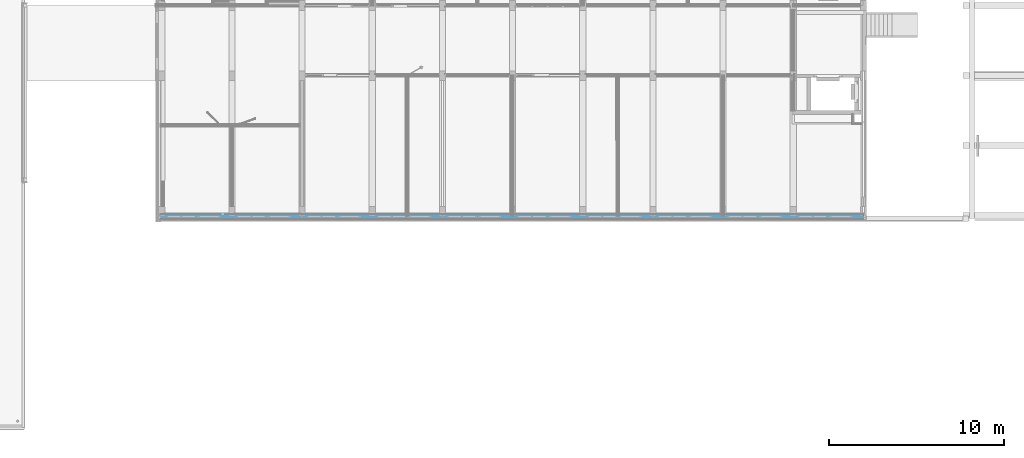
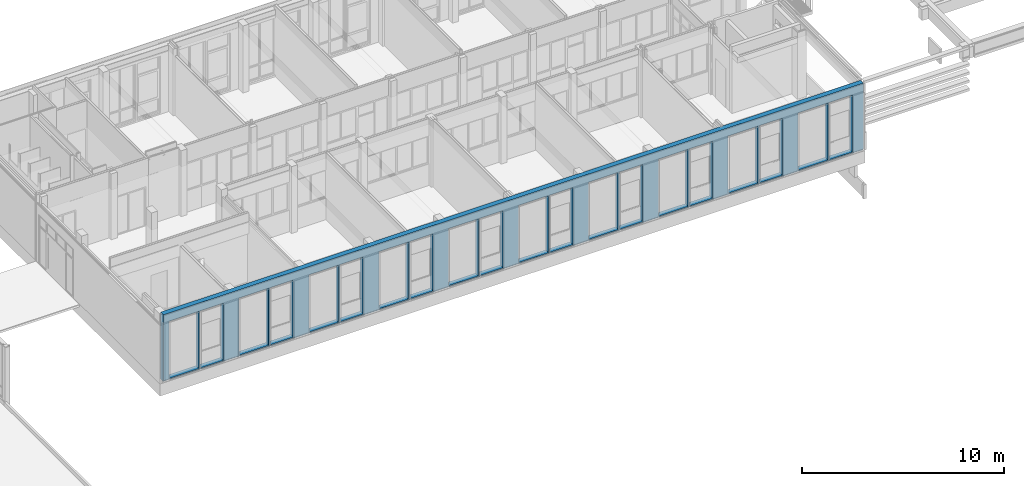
# One storey, part 28 of 54: 1 building element part, 20 openings, 1 element without a shape of its own.
"""IFC2X3 building model written with IfcOpenShell, lengths in millimetres."""

from ifc_helpers import new_model, entity, si_unit, converted_unit, derived_unit, money_unit, direction, frame, origin_with_axes, place, context, subcontext, project, spatial, faceted_brep, material, type_object, element, aggregate, save


model = new_model("IFC2X3")

# Units and contexts
model_context = context("Model", 3, precision=0.01, world=origin_with_axes(), true_north=direction((0.0, 1.0)))
body_context = subcontext(model_context, "Body", "Model", "MODEL_VIEW")
ifc_project = project(units=[si_unit("LENGTHUNIT", "METRE", prefix="MILLI"), si_unit("AREAUNIT", "SQUARE_METRE"), si_unit("VOLUMEUNIT", "CUBIC_METRE"), converted_unit("PLANEANGLEUNIT", "DEGREE", entity("IfcPlaneAngleMeasure", 0.0174532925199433), si_unit("PLANEANGLEUNIT", "RADIAN"), dimensions=[0, 0, 0, 0, 0, 0, 0]), money_unit("EUR"), converted_unit("TIMEUNIT", "Year", entity("IfcTimeMeasure", 31557600.0), si_unit("TIMEUNIT", "SECOND"), dimensions=[0, 0, 1, 0, 0, 0, 0]), si_unit("MASSUNIT", "GRAM", prefix="KILO"), si_unit("THERMODYNAMICTEMPERATUREUNIT", "DEGREE_CELSIUS"), si_unit("LUMINOUSINTENSITYUNIT", "LUMEN"), si_unit("ENERGYUNIT", "JOULE", prefix="MEGA"), derived_unit("THERMALCONDUCTANCEUNIT", [(si_unit("POWERUNIT", "WATT"), 1), (si_unit("LENGTHUNIT", "METRE"), -1), (si_unit("THERMODYNAMICTEMPERATUREUNIT", "KELVIN"), -1)]), derived_unit("SPECIFICHEATCAPACITYUNIT", [(si_unit("ENERGYUNIT", "JOULE"), 1), (si_unit("MASSUNIT", "GRAM", prefix="KILO"), -1), (si_unit("THERMODYNAMICTEMPERATUREUNIT", "KELVIN"), -1)]), derived_unit("MASSDENSITYUNIT", [(si_unit("MASSUNIT", "GRAM", prefix="KILO"), 1), (si_unit("VOLUMEUNIT", "CUBIC_METRE"), -1)])], contexts=[model_context])

# Site, building, storey
site_placement = place(None, origin_with_axes())
site = spatial("IfcSite", under=ifc_project, at=site_placement, Name="<site naam>", CompositionType="ELEMENT")
building_placement = place(site_placement, origin_with_axes())
building = spatial("IfcBuilding", under=site, at=building_placement, Name="<Naam gebouw>", CompositionType="ELEMENT")
storey_placement = place(building_placement, frame((0.0, 0.0, 8500.0), z_axis=(0.0, 0.0, 1.0), x_axis=(1.0, 0.0, 0.0)))
storey = spatial("IfcBuildingStorey", under=building, at=storey_placement, Name="02 2e verdieping", CompositionType="ELEMENT", Elevation=8500.0)

# Wall, openings, building element part
wall_type = type_object("IfcWallType", Name="HSB_285 gevelbeplating 420", PredefinedType="NOTDEFINED")
wall_placement = place(storey_placement, frame((52000.00000000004, -298.0000000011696, 0.0), z_axis=(0.0, 0.0, 1.0), x_axis=(-1.0, 0.0, 0.0)))
wall = element("IfcWall", 1, at=wall_placement, inside=storey, type_object=wall_type, Name="21_Binnenwand_HSB_285")
opening_1_placement = place(wall_placement, frame((38888.99998871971, 0.0, 99.99999999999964), z_axis=(0.0, 0.0, 1.0), x_axis=(1.0, 0.0, 0.0)))
element("IfcOpeningElement", 2, at=opening_1_placement, cuts=wall, Name="21_BU-A-22a_305", context=body_context, shape_type="Brep", body=[
    faceted_brep([(-850.9999999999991, -212.9999999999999, 0.0), (-850.9999999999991, -212.9999999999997, 3450.000000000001), (-850.9999999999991, 1.000000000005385, 3450.000000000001), (-850.9999999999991, 1.000000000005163, 0.0), (-850.9999999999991, -421.0000000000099, 0.0), (-850.9999999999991, -421.0000000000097, 3450.000000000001), (850.9999999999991, -212.9999999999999, 3450.000000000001), (851.0000000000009, 1.000000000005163, 3450.000000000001), (851.0000000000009, 1.000000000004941, 0.0), (850.9999999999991, -213.0000000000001, 0.0), (850.9999999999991, -421.00000000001, 0.0), (850.9999999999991, -421.0000000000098, 3450.000000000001)], [[[0, 1, 2, 3]], [[1, 0, 4, 5]], [[1, 6, 7, 2]], [[7, 8, 3, 2]], [[9, 0, 3, 8]], [[0, 9, 10, 4]], [[5, 4, 10, 11]], [[6, 1, 5, 11]], [[6, 9, 8, 7]], [[9, 6, 11, 10]]]),
])
opening_2_placement = place(wall_placement, frame((37298.99999999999, 0.0, 99.99999999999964), z_axis=(0.0, 0.0, 1.0), x_axis=(1.0, 0.0, 0.0)))
element("IfcOpeningElement", 3, at=opening_2_placement, cuts=wall, Name="21_BU-A-22b_305", context=body_context, shape_type="Brep", body=[
    faceted_brep([(-663.0000000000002, -212.9999999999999, 0.0), (-663.0000000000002, -212.9999999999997, 3450.000000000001), (-663.0000000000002, 1.000000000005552, 3450.000000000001), (-663.0000000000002, 1.00000000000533, 0.0), (-663.0000000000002, -421.0000000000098, 0.0), (-663.0000000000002, -421.0000000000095, 3450.000000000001), (663.0000000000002, -212.9999999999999, 3450.000000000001), (663.0000000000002, 1.000000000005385, 3450.000000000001), (663.0000000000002, 1.000000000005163, 0.0), (663.0000000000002, -213.0000000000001, 0.0), (663.0000000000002, -421.0000000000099, 0.0), (663.0000000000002, -421.0000000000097, 3450.000000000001)], [[[0, 1, 2, 3]], [[1, 0, 4, 5]], [[1, 6, 7, 2]], [[7, 8, 3, 2]], [[9, 0, 3, 8]], [[0, 9, 10, 4]], [[5, 4, 10, 11]], [[6, 1, 5, 11]], [[6, 9, 8, 7]], [[9, 6, 11, 10]]]),
])
opening_3_placement = place(wall_placement, frame((33298.99999999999, 0.0, 99.99999999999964), z_axis=(0.0, 0.0, 1.0), x_axis=(1.0, 0.0, 0.0)))
element("IfcOpeningElement", 4, at=opening_3_placement, cuts=wall, Name="21_BU-A-22b_305", context=body_context, shape_type="Brep", body=[
    faceted_brep([(-663.0000000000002, -212.9999999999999, 0.0), (-663.0000000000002, -212.9999999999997, 3450.000000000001), (-663.0000000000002, 1.000000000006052, 3450.000000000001), (-663.0000000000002, 1.00000000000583, 0.0), (-663.0000000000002, -421.0000000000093, 0.0), (-663.0000000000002, -421.000000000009, 3450.000000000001), (663.0000000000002, -212.9999999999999, 3450.000000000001), (663.0000000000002, 1.000000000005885, 3450.000000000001), (663.0000000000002, 1.000000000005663, 0.0), (663.0000000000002, -213.0000000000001, 0.0), (663.0000000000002, -421.0000000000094, 0.0), (663.0000000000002, -421.0000000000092, 3450.000000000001)], [[[0, 1, 2, 3]], [[1, 0, 4, 5]], [[1, 6, 7, 2]], [[7, 8, 3, 2]], [[9, 0, 3, 8]], [[0, 9, 10, 4]], [[5, 4, 10, 11]], [[6, 1, 5, 11]], [[6, 9, 8, 7]], [[9, 6, 11, 10]]]),
])
opening_4_placement = place(wall_placement, frame((34888.99998871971, 0.0, 99.99999999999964), z_axis=(0.0, 0.0, 1.0), x_axis=(1.0, 0.0, 0.0)))
element("IfcOpeningElement", 5, at=opening_4_placement, cuts=wall, Name="21_BU-A-22a_305", context=body_context, shape_type="Brep", body=[
    faceted_brep([(-850.9999999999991, -212.9999999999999, 0.0), (-850.9999999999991, -212.9999999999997, 3450.000000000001), (-850.9999999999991, 1.000000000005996, 3450.000000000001), (-850.9999999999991, 1.000000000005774, 0.0), (-850.9999999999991, -421.0000000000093, 0.0), (-850.9999999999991, -421.0000000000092, 3450.000000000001), (850.9999999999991, -212.9999999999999, 3450.000000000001), (850.9999999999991, 1.000000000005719, 3450.000000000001), (850.9999999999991, 1.000000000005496, 0.0), (850.9999999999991, -213.0000000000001, 0.0), (850.9999999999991, -421.0000000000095, 0.0), (850.9999999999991, -421.0000000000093, 3450.000000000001)], [[[0, 1, 2, 3]], [[1, 0, 4, 5]], [[1, 6, 7, 2]], [[7, 8, 3, 2]], [[9, 0, 3, 8]], [[0, 9, 10, 4]], [[5, 4, 10, 11]], [[6, 1, 5, 11]], [[6, 9, 8, 7]], [[9, 6, 11, 10]]]),
])
opening_5_placement = place(wall_placement, frame((18888.99998871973, 0.0, 99.99999999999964), z_axis=(0.0, 0.0, 1.0), x_axis=(1.0, 0.0, 0.0)))
element("IfcOpeningElement", 6, at=opening_5_placement, cuts=wall, Name="21_BU-A-22a_305", context=body_context, shape_type="Brep", body=[
    faceted_brep([(-850.9999999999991, -212.9999999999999, 0.0), (-850.9999999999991, -212.9999999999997, 3450.000000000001), (-850.9999999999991, 1.000000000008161, 3450.000000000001), (-850.9999999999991, 1.000000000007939, 0.0), (-850.9999999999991, -421.0000000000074, 0.0), (-850.9999999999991, -421.0000000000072, 3450.000000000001), (850.9999999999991, -212.9999999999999, 3450.000000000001), (850.9999999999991, 1.000000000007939, 3450.000000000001), (850.9999999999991, 1.000000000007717, 0.0), (850.9999999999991, -213.0000000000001, 0.0), (850.9999999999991, -421.0000000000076, 0.0), (850.9999999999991, -421.0000000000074, 3450.000000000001)], [[[0, 1, 2, 3]], [[1, 0, 4, 5]], [[1, 6, 7, 2]], [[7, 8, 3, 2]], [[9, 0, 3, 8]], [[0, 9, 10, 4]], [[5, 4, 10, 11]], [[6, 1, 5, 11]], [[6, 9, 8, 7]], [[9, 6, 11, 10]]]),
])
opening_6_placement = place(wall_placement, frame((22888.98053643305, 0.0, 99.99999999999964), z_axis=(0.0, 0.0, 1.0), x_axis=(1.0, 0.0, 0.0)))
element("IfcOpeningElement", 7, at=opening_6_placement, cuts=wall, Name="21_BU-A-22a_305", context=body_context, shape_type="Brep", body=[
    faceted_brep([(-850.9999999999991, -212.9999999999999, 0.0), (-850.9999999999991, -212.9999999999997, 3450.000000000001), (-850.9999999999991, 1.000000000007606, 3450.000000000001), (-850.9999999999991, 1.000000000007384, 0.0), (-850.9999999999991, -421.0000000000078, 0.0), (-850.9999999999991, -421.0000000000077, 3450.000000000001), (850.9999999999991, -212.9999999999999, 3450.000000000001), (850.9999999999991, 1.000000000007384, 3450.000000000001), (850.9999999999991, 1.000000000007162, 0.0), (850.9999999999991, -213.0000000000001, 0.0), (850.9999999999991, -421.0000000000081, 0.0), (850.9999999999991, -421.0000000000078, 3450.000000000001)], [[[0, 1, 2, 3]], [[1, 0, 4, 5]], [[1, 6, 7, 2]], [[7, 8, 3, 2]], [[9, 0, 3, 8]], [[0, 9, 10, 4]], [[5, 4, 10, 11]], [[6, 1, 5, 11]], [[6, 9, 8, 7]], [[9, 6, 11, 10]]]),
])
opening_7_placement = place(wall_placement, frame((17299.00000000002, 0.0, 99.99999999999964), z_axis=(0.0, 0.0, 1.0), x_axis=(1.0, 0.0, 0.0)))
element("IfcOpeningElement", 8, at=opening_7_placement, cuts=wall, Name="21_BU-A-22b_305", context=body_context, shape_type="Brep", body=[
    faceted_brep([(-662.9999999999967, -212.9999999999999, 0.0), (-662.9999999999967, -212.9999999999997, 3450.000000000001), (-662.9999999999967, 1.000000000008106, 3450.000000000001), (-662.9999999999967, 1.000000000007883, 0.0), (-662.9999999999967, -421.0000000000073, 0.0), (-662.9999999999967, -421.000000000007, 3450.000000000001), (662.9999999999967, -212.9999999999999, 3450.000000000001), (662.9999999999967, 1.000000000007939, 3450.000000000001), (662.9999999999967, 1.000000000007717, 0.0), (662.9999999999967, -213.0000000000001, 0.0), (662.9999999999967, -421.0000000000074, 0.0), (662.9999999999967, -421.0000000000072, 3450.000000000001)], [[[0, 1, 2, 3]], [[1, 0, 4, 5]], [[1, 6, 7, 2]], [[7, 8, 3, 2]], [[9, 0, 3, 8]], [[0, 9, 10, 4]], [[5, 4, 10, 11]], [[6, 1, 5, 11]], [[6, 9, 8, 7]], [[9, 6, 11, 10]]]),
])
opening_8_placement = place(wall_placement, frame((26888.98052515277, 0.0, 99.99999999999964), z_axis=(0.0, 0.0, 1.0), x_axis=(1.0, 0.0, 0.0)))
element("IfcOpeningElement", 9, at=opening_8_placement, cuts=wall, Name="21_BU-A-22a_305", context=body_context, shape_type="Brep", body=[
    faceted_brep([(-850.9999999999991, -212.9999999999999, 0.0), (-850.9999999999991, -212.9999999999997, 3450.000000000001), (-850.9999999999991, 1.000000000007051, 3450.000000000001), (-850.9999999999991, 1.000000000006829, 0.0), (-850.9999999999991, -421.0000000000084, 0.0), (-850.9999999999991, -421.0000000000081, 3450.000000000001), (850.9999999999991, -212.9999999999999, 3450.000000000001), (850.9999999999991, 1.000000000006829, 3450.000000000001), (850.9999999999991, 1.000000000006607, 0.0), (850.9999999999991, -213.0000000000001, 0.0), (850.9999999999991, -421.0000000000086, 0.0), (850.9999999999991, -421.0000000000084, 3450.000000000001)], [[[0, 1, 2, 3]], [[1, 0, 4, 5]], [[1, 6, 7, 2]], [[7, 8, 3, 2]], [[9, 0, 3, 8]], [[0, 9, 10, 4]], [[5, 4, 10, 11]], [[6, 1, 5, 11]], [[6, 9, 8, 7]], [[9, 6, 11, 10]]]),
])
opening_9_placement = place(wall_placement, frame((21298.98054771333, 0.0, 99.99999999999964), z_axis=(0.0, 0.0, 1.0), x_axis=(1.0, 0.0, 0.0)))
element("IfcOpeningElement", 10, at=opening_9_placement, cuts=wall, Name="21_BU-A-22b_305", context=body_context, shape_type="Brep", body=[
    faceted_brep([(-663.0000000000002, -212.9999999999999, 0.0), (-663.0000000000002, -212.9999999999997, 3450.000000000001), (-663.0000000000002, 1.000000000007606, 3450.000000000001), (-663.0000000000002, 1.000000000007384, 0.0), (-663.0000000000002, -421.0000000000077, 0.0), (-663.0000000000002, -421.0000000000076, 3450.000000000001), (663.0000000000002, -212.9999999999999, 3450.000000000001), (663.0000000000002, 1.000000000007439, 3450.000000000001), (663.0000000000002, 1.000000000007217, 0.0), (663.0000000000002, -213.0000000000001, 0.0), (663.0000000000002, -421.0000000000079, 0.0), (663.0000000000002, -421.0000000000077, 3450.000000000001)], [[[0, 1, 2, 3]], [[1, 0, 4, 5]], [[1, 6, 7, 2]], [[7, 8, 3, 2]], [[9, 0, 3, 8]], [[0, 9, 10, 4]], [[5, 4, 10, 11]], [[6, 1, 5, 11]], [[6, 9, 8, 7]], [[9, 6, 11, 10]]]),
])
opening_10_placement = place(wall_placement, frame((10889.00000000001, 0.0, 99.99999999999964), z_axis=(0.0, 0.0, 1.0), x_axis=(1.0, 0.0, 0.0)))
element("IfcOpeningElement", 11, at=opening_10_placement, cuts=wall, Name="21_BU-A-22a_305", context=body_context, shape_type="Brep", body=[
    faceted_brep([(-850.9999999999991, -212.9999999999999, 0.0), (-850.9999999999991, -212.9999999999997, 3450.000000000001), (-850.9999999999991, 1.000000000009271, 3450.000000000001), (-850.9999999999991, 1.000000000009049, 0.0), (-850.9999999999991, -421.0000000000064, 0.0), (-850.9999999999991, -421.0000000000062, 3450.000000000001), (850.9999999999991, -212.9999999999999, 3450.000000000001), (850.9999999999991, 1.000000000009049, 3450.000000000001), (850.9999999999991, 1.000000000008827, 0.0), (850.9999999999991, -213.0000000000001, 0.0), (850.9999999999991, -421.0000000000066, 0.0), (850.9999999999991, -421.0000000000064, 3450.000000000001)], [[[0, 1, 2, 3]], [[1, 0, 4, 5]], [[1, 6, 7, 2]], [[7, 8, 3, 2]], [[9, 0, 3, 8]], [[0, 9, 10, 4]], [[5, 4, 10, 11]], [[6, 1, 5, 11]], [[6, 9, 8, 7]], [[9, 6, 11, 10]]]),
])
opening_11_placement = place(wall_placement, frame((25298.98053643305, 0.0, 99.99999999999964), z_axis=(0.0, 0.0, 1.0), x_axis=(1.0, 0.0, 0.0)))
element("IfcOpeningElement", 12, at=opening_11_placement, cuts=wall, Name="21_BU-A-22b_305", context=body_context, shape_type="Brep", body=[
    faceted_brep([(-663.0000000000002, -212.9999999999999, 0.0), (-663.0000000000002, -212.9999999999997, 3450.000000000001), (-663.0000000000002, 1.000000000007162, 3450.000000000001), (-663.0000000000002, 1.00000000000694, 0.0), (-663.0000000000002, -421.0000000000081, 0.0), (-663.0000000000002, -421.000000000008, 3450.000000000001), (663.0000000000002, -212.9999999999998, 3450.000000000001), (663.0000000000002, 1.000000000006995, 3450.000000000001), (663.0000000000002, 1.000000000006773, 0.0), (663.0000000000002, -213.0000000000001, 0.0), (663.0000000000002, -421.0000000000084, 0.0), (663.0000000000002, -421.0000000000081, 3450.000000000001)], [[[0, 1, 2, 3]], [[1, 0, 4, 5]], [[1, 6, 7, 2]], [[7, 8, 3, 2]], [[9, 0, 3, 8]], [[0, 9, 10, 4]], [[5, 4, 10, 11]], [[6, 1, 5, 11]], [[6, 9, 8, 7]], [[9, 6, 11, 10]]]),
])
opening_12_placement = place(wall_placement, frame((9299.000011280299, 0.0, 99.99999999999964), z_axis=(0.0, 0.0, 1.0), x_axis=(1.0, 0.0, 0.0)))
element("IfcOpeningElement", 13, at=opening_12_placement, cuts=wall, Name="21_BU-A-22b_305", context=body_context, shape_type="Brep", body=[
    faceted_brep([(-662.9999999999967, -212.9999999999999, 0.0), (-662.9999999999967, -212.9999999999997, 3450.000000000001), (-662.9999999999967, 1.00000000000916, 3450.000000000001), (-662.9999999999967, 1.000000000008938, 0.0), (-662.9999999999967, -421.0000000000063, 0.0), (-662.9999999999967, -421.000000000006, 3450.000000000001), (662.9999999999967, -212.9999999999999, 3450.000000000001), (662.9999999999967, 1.000000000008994, 3450.000000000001), (662.9999999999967, 1.000000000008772, 0.0), (662.9999999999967, -213.0000000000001, 0.0), (662.9999999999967, -421.0000000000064, 0.0), (662.9999999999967, -421.0000000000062, 3450.000000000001)], [[[0, 1, 2, 3]], [[1, 0, 4, 5]], [[1, 6, 7, 2]], [[7, 8, 3, 2]], [[9, 0, 3, 8]], [[0, 9, 10, 4]], [[5, 4, 10, 11]], [[6, 1, 5, 11]], [[6, 9, 8, 7]], [[9, 6, 11, 10]]]),
])
opening_13_placement = place(wall_placement, frame((5299.000011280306, 0.0, 99.99999999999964), z_axis=(0.0, 0.0, 1.0), x_axis=(1.0, 0.0, 0.0)))
element("IfcOpeningElement", 14, at=opening_13_placement, cuts=wall, Name="21_BU-A-22b_305", context=body_context, shape_type="Brep", body=[
    faceted_brep([(-662.9999999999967, -212.9999999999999, 0.0), (-662.9999999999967, -212.9999999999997, 3450.000000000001), (-662.9999999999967, 1.000000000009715, 3450.000000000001), (-662.9999999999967, 1.000000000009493, 0.0), (-662.9999999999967, -421.0000000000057, 0.0), (-662.9999999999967, -421.0000000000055, 3450.000000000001), (662.9999999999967, -212.9999999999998, 3450.000000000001), (662.9999999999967, 1.000000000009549, 3450.000000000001), (662.9999999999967, 1.000000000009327, 0.0), (662.9999999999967, -213.0, 0.0), (662.9999999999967, -421.0000000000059, 0.0), (662.9999999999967, -421.0000000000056, 3450.000000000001)], [[[0, 1, 2, 3]], [[1, 0, 4, 5]], [[1, 6, 7, 2]], [[7, 8, 3, 2]], [[9, 0, 3, 8]], [[0, 9, 10, 4]], [[5, 4, 10, 11]], [[6, 1, 5, 11]], [[6, 9, 8, 7]], [[9, 6, 11, 10]]]),
])
opening_14_placement = place(wall_placement, frame((2889.000000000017, 0.0, 99.99999999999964), z_axis=(0.0, 0.0, 1.0), x_axis=(1.0, 0.0, 0.0)))
element("IfcOpeningElement", 15, at=opening_14_placement, cuts=wall, Name="21_BU-A-22a_305", context=body_context, shape_type="Brep", body=[
    faceted_brep([(-850.9999999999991, -212.9999999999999, 0.0), (-850.9999999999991, -212.9999999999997, 3450.000000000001), (-850.9999999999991, 1.000000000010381, 3450.000000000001), (-850.9999999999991, 1.000000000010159, 0.0), (-850.9999999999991, -421.0000000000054, 0.0), (-850.9999999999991, -421.0000000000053, 3450.000000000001), (850.9999999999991, -212.9999999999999, 3450.000000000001), (850.9999999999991, 1.000000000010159, 3450.000000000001), (850.9999999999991, 1.000000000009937, 0.0), (850.9999999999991, -213.0000000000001, 0.0), (850.9999999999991, -421.0000000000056, 0.0), (850.9999999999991, -421.0000000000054, 3450.000000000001)], [[[0, 1, 2, 3]], [[1, 0, 4, 5]], [[1, 6, 7, 2]], [[7, 8, 3, 2]], [[9, 0, 3, 8]], [[0, 9, 10, 4]], [[5, 4, 10, 11]], [[6, 1, 5, 11]], [[6, 9, 8, 7]], [[9, 6, 11, 10]]]),
])
opening_15_placement = place(wall_placement, frame((6889.000000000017, 0.0, 99.99999999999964), z_axis=(0.0, 0.0, 1.0), x_axis=(1.0, 0.0, 0.0)))
element("IfcOpeningElement", 16, at=opening_15_placement, cuts=wall, Name="21_BU-A-22a_305", context=body_context, shape_type="Brep", body=[
    faceted_brep([(-850.9999999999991, -212.9999999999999, 0.0), (-850.9999999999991, -212.9999999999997, 3450.000000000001), (-850.9999999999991, 1.000000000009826, 3450.000000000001), (-850.9999999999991, 1.000000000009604, 0.0), (-850.9999999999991, -421.0000000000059, 0.0), (-850.9999999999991, -421.0000000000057, 3450.000000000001), (850.9999999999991, -212.9999999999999, 3450.000000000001), (850.9999999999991, 1.000000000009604, 3450.000000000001), (850.9999999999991, 1.000000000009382, 0.0), (850.9999999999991, -213.0000000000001, 0.0), (850.9999999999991, -421.0000000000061, 0.0), (850.9999999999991, -421.0000000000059, 3450.000000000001)], [[[0, 1, 2, 3]], [[1, 0, 4, 5]], [[1, 6, 7, 2]], [[7, 8, 3, 2]], [[9, 0, 3, 8]], [[0, 9, 10, 4]], [[5, 4, 10, 11]], [[6, 1, 5, 11]], [[6, 9, 8, 7]], [[9, 6, 11, 10]]]),
])
opening_16_placement = place(wall_placement, frame((1299.000011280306, 0.0, 99.99999999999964), z_axis=(0.0, 0.0, 1.0), x_axis=(1.0, 0.0, 0.0)))
element("IfcOpeningElement", 17, at=opening_16_placement, cuts=wall, Name="21_BU-A-22b_305", context=body_context, shape_type="Brep", body=[
    faceted_brep([(-662.9999999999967, -212.9999999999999, 0.0), (-662.9999999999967, -212.9999999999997, 3450.000000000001), (-662.9999999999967, 1.000000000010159, 3450.000000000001), (-662.9999999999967, 1.000000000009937, 0.0), (-662.9999999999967, -421.0000000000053, 0.0), (-662.9999999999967, -421.0000000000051, 3450.000000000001), (662.9999999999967, -212.9999999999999, 3450.000000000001), (662.9999999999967, 1.000000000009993, 3450.000000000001), (662.9999999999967, 1.000000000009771, 0.0), (662.9999999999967, -213.0000000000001, 0.0), (662.9999999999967, -421.0000000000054, 0.0), (662.9999999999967, -421.0000000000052, 3450.000000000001)], [[[0, 1, 2, 3]], [[1, 0, 4, 5]], [[1, 6, 7, 2]], [[7, 8, 3, 2]], [[9, 0, 3, 8]], [[0, 9, 10, 4]], [[5, 4, 10, 11]], [[6, 1, 5, 11]], [[6, 9, 8, 7]], [[9, 6, 11, 10]]]),
])
opening_17_placement = place(wall_placement, frame((14889.00000000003, 0.0, 99.99999999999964), z_axis=(0.0, 0.0, 1.0), x_axis=(1.0, 0.0, 0.0)))
element("IfcOpeningElement", 18, at=opening_17_placement, cuts=wall, Name="21_BU-A-22a_305", context=body_context, shape_type="Brep", body=[
    faceted_brep([(-850.9999999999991, -212.9999999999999, 0.0), (-850.9999999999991, -212.9999999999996, 3450.000000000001), (-850.9999999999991, 1.000000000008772, 3450.000000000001), (-850.9999999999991, 1.00000000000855, 0.0), (-850.9999999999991, -421.0000000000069, 0.0), (-850.9999999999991, -421.0000000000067, 3450.000000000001), (850.9999999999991, -212.9999999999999, 3450.000000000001), (850.9999999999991, 1.000000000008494, 3450.000000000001), (850.9999999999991, 1.000000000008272, 0.0), (850.9999999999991, -213.0000000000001, 0.0), (850.9999999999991, -421.0000000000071, 0.0), (850.9999999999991, -421.0000000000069, 3450.000000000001)], [[[0, 1, 2, 3]], [[1, 0, 4, 5]], [[1, 6, 7, 2]], [[7, 8, 3, 2]], [[9, 0, 3, 8]], [[0, 9, 10, 4]], [[5, 4, 10, 11]], [[6, 1, 5, 11]], [[6, 9, 8, 7]], [[9, 6, 11, 10]]]),
])
opening_18_placement = place(wall_placement, frame((13299.00001128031, 0.0, 99.99999999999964), z_axis=(0.0, 0.0, 1.0), x_axis=(1.0, 0.0, 0.0)))
element("IfcOpeningElement", 19, at=opening_18_placement, cuts=wall, Name="21_BU-A-22b_305", context=body_context, shape_type="Brep", body=[
    faceted_brep([(-662.9999999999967, -212.9999999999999, 0.0), (-662.9999999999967, -212.9999999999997, 3450.000000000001), (-662.9999999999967, 1.000000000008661, 3450.000000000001), (-662.9999999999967, 1.000000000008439, 0.0), (-662.9999999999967, -421.0000000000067, 0.0), (-662.9999999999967, -421.0000000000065, 3450.000000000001), (662.9999999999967, -212.9999999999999, 3450.000000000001), (662.9999999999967, 1.000000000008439, 3450.000000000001), (662.9999999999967, 1.000000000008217, 0.0), (662.9999999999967, -213.0000000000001, 0.0), (662.9999999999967, -421.0000000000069, 0.0), (662.9999999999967, -421.0000000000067, 3450.000000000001)], [[[0, 1, 2, 3]], [[1, 0, 4, 5]], [[1, 6, 7, 2]], [[7, 8, 3, 2]], [[9, 0, 3, 8]], [[0, 9, 10, 4]], [[5, 4, 10, 11]], [[6, 1, 5, 11]], [[6, 9, 8, 7]], [[9, 6, 11, 10]]]),
])
opening_19_placement = place(wall_placement, frame((30889.0499771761, 0.0, 99.99999999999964), z_axis=(0.0, 0.0, 1.0), x_axis=(1.0, 0.0, 0.0)))
element("IfcOpeningElement", 20, at=opening_19_placement, cuts=wall, Name="21_BU-A-22a_305", context=body_context, shape_type="Brep", body=[
    faceted_brep([(-850.9999999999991, -212.9999999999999, 0.0), (-850.9999999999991, -212.9999999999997, 3450.000000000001), (-850.9999999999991, 1.000000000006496, 3450.000000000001), (-850.9999999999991, 1.000000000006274, 0.0), (-850.9999999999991, -421.0000000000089, 0.0), (-850.9999999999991, -421.0000000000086, 3450.000000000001), (850.9999999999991, -212.9999999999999, 3450.000000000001), (850.9999999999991, 1.000000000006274, 3450.000000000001), (850.9999999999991, 1.000000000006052, 0.0), (850.9999999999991, -213.0000000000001, 0.0), (850.9999999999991, -421.0000000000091, 0.0), (850.9999999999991, -421.0000000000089, 3450.000000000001)], [[[0, 1, 2, 3]], [[1, 0, 4, 5]], [[1, 6, 7, 2]], [[7, 8, 3, 2]], [[9, 0, 3, 8]], [[0, 9, 10, 4]], [[5, 4, 10, 11]], [[6, 1, 5, 11]], [[6, 9, 8, 7]], [[9, 6, 11, 10]]]),
])
opening_20_placement = place(wall_placement, frame((29299.04998845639, 0.0, 99.99999999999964), z_axis=(0.0, 0.0, 1.0), x_axis=(1.0, 0.0, 0.0)))
element("IfcOpeningElement", 21, at=opening_20_placement, cuts=wall, Name="21_BU-A-22b_305", context=body_context, shape_type="Brep", body=[
    faceted_brep([(-663.0000000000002, -212.9999999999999, 0.0), (-663.0000000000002, -212.9999999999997, 3450.000000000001), (-663.0000000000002, 1.000000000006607, 3450.000000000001), (-663.0000000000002, 1.000000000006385, 0.0), (-663.0000000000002, -421.0000000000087, 0.0), (-663.0000000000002, -421.0000000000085, 3450.000000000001), (663.0000000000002, -212.9999999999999, 3450.000000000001), (663.0000000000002, 1.00000000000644, 3450.000000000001), (663.0000000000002, 1.000000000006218, 0.0), (663.0000000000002, -213.0000000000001, 0.0), (663.0000000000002, -421.0000000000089, 0.0), (663.0000000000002, -421.0000000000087, 3450.000000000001)], [[[0, 1, 2, 3]], [[1, 0, 4, 5]], [[1, 6, 7, 2]], [[7, 8, 3, 2]], [[9, 0, 3, 8]], [[0, 9, 10, 4]], [[5, 4, 10, 11]], [[6, 1, 5, 11]], [[6, 9, 8, 7]], [[9, 6, 11, 10]]]),
])
ifc_material = material(Name="isolatie_houtvezel")
building_element_part_placement = place(wall_placement, origin_with_axes())
building_element_part = element("IfcBuildingElementPart", 22, at=building_element_part_placement, material=ifc_material, Name="isolatie_houtvezel", context=body_context, shape_type="Brep", body=[
    faceted_brep([(0.0, -107.0, 70.00000842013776), (0.0, -133.0000071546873, 70.00000842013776), (0.0, -133.0000071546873, 0.0), (0.0, -392.0000000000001, 0.0), (0.0, -391.9999999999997, 4050.000000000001), (0.0, -107.0, 4050.000000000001), (40065.00000000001, -133.0000071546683, 70.00000842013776), (40065.00000000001, -106.9999999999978, 70.00000842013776), (40065.00000000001, -133.0000071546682, 0.0), (40065.00000000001, -391.9999999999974, 0.0), (39849.99994075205, -391.999999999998, 0.0), (39849.99994075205, -297.9999677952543, 0.0), (32075.0000144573, -297.9999677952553, 0.0), (32075.00003662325, -392.0000000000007, 0.0), (25926.25096336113, -392.0000000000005, 0.0), (25926.25096336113, -373.0000000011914, 0.0), (24174.98053496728, -373.0000000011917, 0.0), (24174.98053496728, -391.9999999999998, 0.0), (23824.99995976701, -391.9999999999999, 0.0), (23824.99995976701, -373.0000000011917, 0.0), (20174.99995864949, -373.0000000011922, 0.0), (20174.99995864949, -391.9999999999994, 0.0), (19825.00020866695, -391.9999999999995, 0.0), (19825.00020866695, -373.0000000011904, 0.0), (16174.99997236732, -373.0000000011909, 0.0), (16174.99997236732, -391.9999999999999, 0.0), (15825.00000534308, -392.0, 0.0), (15825.00000534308, -373.0000000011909, 0.0), (14076.23975822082, -373.0000000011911, 0.0), (14076.23975822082, -392.0000000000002, 0.0), (13925.02697398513, -392.0000000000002, 0.0), (13925.02697398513, -373.0000000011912, 0.0), (12174.99994562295, -373.0000000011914, 0.0), (12174.99994562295, -392.0000000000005, 0.0), (11824.99997859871, -392.0000000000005, 0.0), (11824.99997859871, -373.0000000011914, 0.0), (8174.999918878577, -373.0000000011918, 0.0), (8174.999918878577, -392.0000000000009, 0.0), (7824.999919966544, -392.000000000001, 0.0), (7824.999919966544, -373.0000000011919, 0.0), (4174.999990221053, -373.0000000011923, 0.0), (4174.999990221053, -392.0000000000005, 0.0), (3825.000117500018, -392.0000000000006, 0.0), (3825.000117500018, -373.0000000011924, 0.0), (135.0000514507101, -373.0000000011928, 0.0), (135.0000514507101, -392.0000000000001, 0.0), (12174.99994562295, -391.9999999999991, 3.000000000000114), (13925.02697398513, -391.9999999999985, 3.000000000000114), (14076.23975822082, -391.9999999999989, 3.000000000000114), (15825.00000534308, -391.9999999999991, 3.000000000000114), (16174.99997236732, -391.9999999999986, 3.000000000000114), (19825.00020866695, -391.9999999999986, 3.000000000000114), (20174.99995864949, -391.9999999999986, 3.000000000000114), (23824.99995976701, -391.9999999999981, 3.000000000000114), (24174.98053496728, -391.9999999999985, 3.000000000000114), (25926.25096336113, -391.9999999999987, 3.000000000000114), (32075.00003662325, -391.999999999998, 3.000000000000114), (39849.99994075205, -391.999999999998, 3.000000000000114), (40065.00000000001, -391.9999999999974, 4050.000000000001), (135.0000514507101, -391.9999999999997, 3.000000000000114), (3825.000117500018, -391.9999999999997, 3.000000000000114), (4174.999990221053, -391.9999999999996, 3.000000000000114), (7824.999919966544, -391.9999999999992, 3.000000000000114), (8174.999918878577, -391.9999999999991, 3.000000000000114), (11824.99997859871, -391.9999999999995, 3.000000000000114), (40065.00000000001, -106.9999999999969, 4050.000000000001), (39849.99994075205, -297.9999677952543, 3.000000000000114), (32075.0000144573, -297.9999677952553, 3.000000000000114), (25926.25096336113, -373.0000000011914, 3.000000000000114), (24174.98053496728, -373.0000000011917, 3.000000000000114), (23824.99995976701, -373.0000000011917, 3.000000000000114), (20174.99995864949, -373.0000000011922, 3.000000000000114), (19825.00020866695, -373.0000000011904, 3.000000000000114), (16174.99997236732, -373.0000000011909, 3.000000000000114), (15825.00000534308, -373.0000000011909, 3.000000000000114), (14076.23975822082, -373.0000000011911, 3.000000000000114), (13925.02697398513, -373.0000000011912, 3.000000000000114), (12174.99994562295, -373.0000000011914, 3.000000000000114), (11824.99997859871, -373.0000000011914, 3.000000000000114), (8174.999918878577, -373.0000000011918, 3.000000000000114), (7824.999919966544, -373.0000000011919, 3.000000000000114), (4174.999990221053, -373.0000000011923, 3.000000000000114), (3825.000117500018, -373.0000000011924, 3.000000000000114), (135.0000514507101, -373.0000000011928, 3.000000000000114)], [[[0, 1, 2, 3, 4, 5]], [[6, 1, 0, 7]], [[8, 2, 1, 6]], [[3, 2, 8, 9, 10, 11, 12, 13, 14, 15, 16, 17, 18, 19, 20, 21, 22, 23, 24, 25, 26, 27, 28, 29, 30, 31, 32, 33, 34, 35, 36, 37, 38, 39, 40, 41, 42, 43, 44, 45]], [[33, 46, 47, 30, 29, 48, 49, 26, 25, 50, 51, 22, 21, 52, 53, 18, 17, 54, 55, 14, 13, 56, 57, 10, 9, 58, 4, 3, 45, 59, 60, 42, 41, 61, 62, 38, 37, 63, 64, 34]], [[65, 5, 4, 58]], [[65, 7, 0, 5]], [[8, 6, 7, 65, 58, 9]], [[66, 11, 10, 57]], [[66, 67, 12, 11]], [[12, 67, 56, 13]], [[68, 15, 14, 55]], [[68, 69, 16, 15]], [[16, 69, 54, 17]], [[70, 19, 18, 53]], [[70, 71, 20, 19]], [[20, 71, 52, 21]], [[72, 23, 22, 51]], [[72, 73, 24, 23]], [[24, 73, 50, 25]], [[74, 27, 26, 49]], [[74, 75, 28, 27]], [[28, 75, 48, 29]], [[76, 31, 30, 47]], [[76, 77, 32, 31]], [[32, 77, 46, 33]], [[78, 35, 34, 64]], [[78, 79, 36, 35]], [[36, 79, 63, 37]], [[80, 39, 38, 62]], [[80, 81, 40, 39]], [[40, 81, 61, 41]], [[82, 43, 42, 60]], [[82, 83, 44, 43]], [[44, 83, 59, 45]], [[77, 76, 47, 46]], [[75, 74, 49, 48]], [[73, 72, 51, 50]], [[71, 70, 53, 52]], [[69, 68, 55, 54]], [[67, 66, 57, 56]], [[83, 82, 60, 59]], [[81, 80, 62, 61]], [[79, 78, 64, 63]]]),
])
aggregate(wall, [building_element_part])

save(model, "model.ifc")
